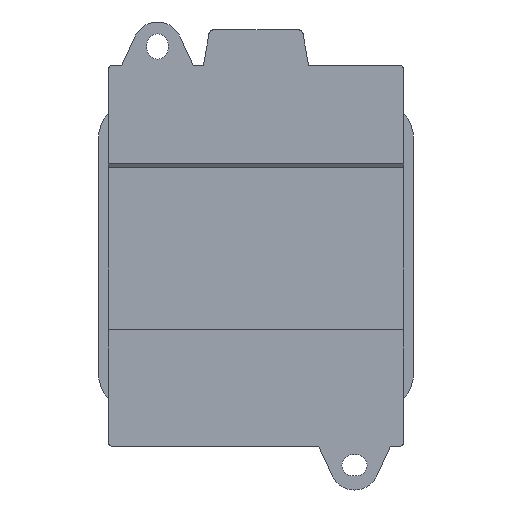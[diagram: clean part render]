
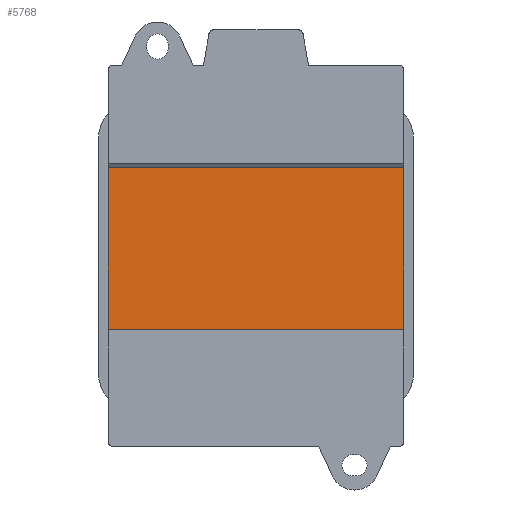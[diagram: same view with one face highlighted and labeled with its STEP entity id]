
A CAD part, front view. The second image highlights one B-rep face of the part: STEP entity #5768.
In plain terms, the highlighted planar face has unit normal (0, -1, 0).
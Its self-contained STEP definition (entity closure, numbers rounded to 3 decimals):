
#241 = CARTESIAN_POINT ( 'NONE',  ( -30., 3.997, -17.5 ) ) ;
#470 = VECTOR ( 'NONE', #1200, 1000. ) ;
#521 = VECTOR ( 'NONE', #8496, 1000. ) ;
#799 = VERTEX_POINT ( 'NONE', #6513 ) ;
#951 = DIRECTION ( 'NONE',  ( 0., 0., -1. ) ) ;
#1200 = DIRECTION ( 'NONE',  ( 1., 0., 0. ) ) ;
#1258 = VECTOR ( 'NONE', #6413, 1000. ) ;
#1466 = CARTESIAN_POINT ( 'NONE',  ( 30., 3.997, 19.2 ) ) ;
#1513 = CARTESIAN_POINT ( 'NONE',  ( 30., 3.997, 17.9 ) ) ;
#1561 = EDGE_CURVE ( 'NONE', #1676, #799, #7052, .T. ) ;
#1676 = VERTEX_POINT ( 'NONE', #1513 ) ;
#2118 = CARTESIAN_POINT ( 'NONE',  ( -45., 3.997, 17.9 ) ) ;
#2161 = DIRECTION ( 'NONE',  ( 0., 0., 1. ) ) ;
#2314 = AXIS2_PLACEMENT_3D ( 'NONE', #2118, #6846, #2161 ) ;
#2589 = LINE ( 'NONE', #6693, #470 ) ;
#3034 = ORIENTED_EDGE ( 'NONE', *, *, #4780, .F. ) ;
#3258 = EDGE_LOOP ( 'NONE', ( #3034, #3341, #5682, #8191 ) ) ;
#3279 = VERTEX_POINT ( 'NONE', #6818 ) ;
#3281 = CARTESIAN_POINT ( 'NONE',  ( -45., 3.997, -17.5 ) ) ;
#3305 = CARTESIAN_POINT ( 'NONE',  ( -30., 3.997, 19.2 ) ) ;
#3341 = ORIENTED_EDGE ( 'NONE', *, *, #8488, .T. ) ;
#4264 = LINE ( 'NONE', #3305, #4795 ) ;
#4780 = EDGE_CURVE ( 'NONE', #3279, #1676, #2589, .T. ) ;
#4795 = VECTOR ( 'NONE', #951, 1000. ) ;
#5162 = FACE_OUTER_BOUND ( 'NONE', #3258, .T. ) ;
#5292 = EDGE_CURVE ( 'NONE', #8606, #799, #5430, .T. ) ;
#5430 = LINE ( 'NONE', #3281, #1258 ) ;
#5682 = ORIENTED_EDGE ( 'NONE', *, *, #5292, .T. ) ;
#5768 = ADVANCED_FACE ( 'NONE', ( #5162 ), #9932, .F. ) ;
#6413 = DIRECTION ( 'NONE',  ( 1., 0., 0. ) ) ;
#6513 = CARTESIAN_POINT ( 'NONE',  ( 30., 3.997, -17.5 ) ) ;
#6693 = CARTESIAN_POINT ( 'NONE',  ( -45., 3.997, 17.9 ) ) ;
#6818 = CARTESIAN_POINT ( 'NONE',  ( -30., 3.997, 17.9 ) ) ;
#6846 = DIRECTION ( 'NONE',  ( 0., 1., 0. ) ) ;
#7052 = LINE ( 'NONE', #1466, #521 ) ;
#8191 = ORIENTED_EDGE ( 'NONE', *, *, #1561, .F. ) ;
#8488 = EDGE_CURVE ( 'NONE', #3279, #8606, #4264, .T. ) ;
#8496 = DIRECTION ( 'NONE',  ( 0., 0., -1. ) ) ;
#8606 = VERTEX_POINT ( 'NONE', #241 ) ;
#9932 = PLANE ( 'NONE',  #2314 ) ;
